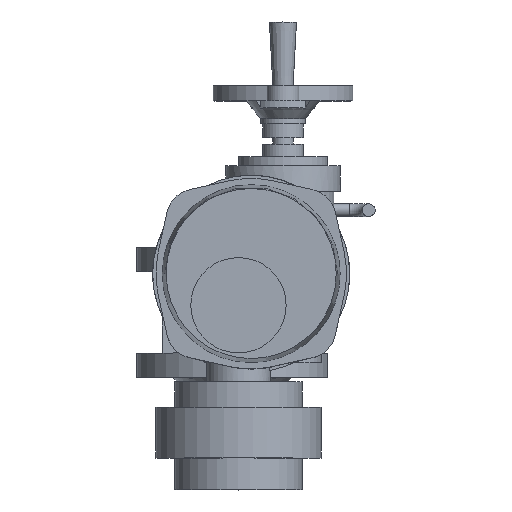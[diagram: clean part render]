
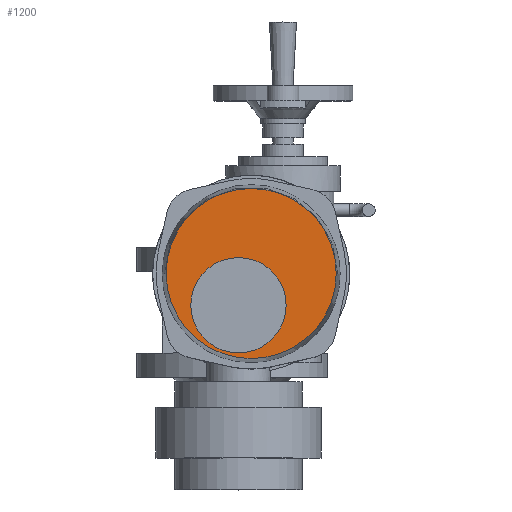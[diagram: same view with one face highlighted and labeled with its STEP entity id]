
A CAD part, top view. The second image highlights one B-rep face of the part: STEP entity #1200.
In plain terms, the highlighted planar face has unit normal (0, 0, 1).
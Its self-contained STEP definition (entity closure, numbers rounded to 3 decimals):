
#1200=ADVANCED_FACE('',(#2740,#2742),#2744,.T.);
#2740=FACE_BOUND('',#2741,.T.);
#2741=EDGE_LOOP('',(#3781));
#2742=FACE_BOUND('',#2743,.T.);
#2743=EDGE_LOOP('',(#3782));
#2744=PLANE('',#2745);
#2745=AXIS2_PLACEMENT_3D('',#2746,#2747,#2748);
#2746=CARTESIAN_POINT('',(15.,30.,362.));
#2747=DIRECTION('',(0.,0.,1.));
#2748=DIRECTION('',(-1.,0.,0.));
#3781=ORIENTED_EDGE('',*,*,#4292,.T.);
#3782=ORIENTED_EDGE('',*,*,#4365,.F.);
#4292=EDGE_CURVE('',#4905,#4905,#4906,.T.);
#4365=EDGE_CURVE('',#5025,#5025,#5026,.T.);
#4905=VERTEX_POINT('',#7062);
#4906=CIRCLE('',#7063,66.908);
#5025=VERTEX_POINT('',#8072);
#5026=CIRCLE('',#8073,37.5);
#7062=CARTESIAN_POINT('',(-51.908,30.,362.));
#7063=AXIS2_PLACEMENT_3D('',#7064,#7065,#7066);
#7064=CARTESIAN_POINT('',(15.,30.,362.));
#7065=DIRECTION('',(0.,0.,1.));
#7066=DIRECTION('',(-1.,0.,0.));
#8072=CARTESIAN_POINT('',(-32.5,5.,362.));
#8073=AXIS2_PLACEMENT_3D('',#8074,#8075,#8076);
#8074=CARTESIAN_POINT('',(5.,5.,362.));
#8075=DIRECTION('',(0.,0.,1.));
#8076=DIRECTION('',(-1.,0.,0.));
